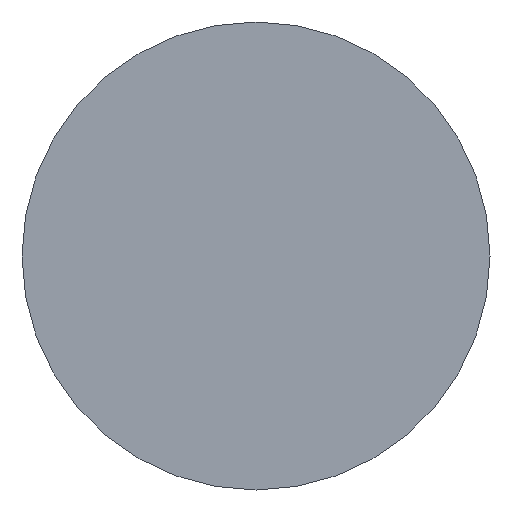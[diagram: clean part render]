
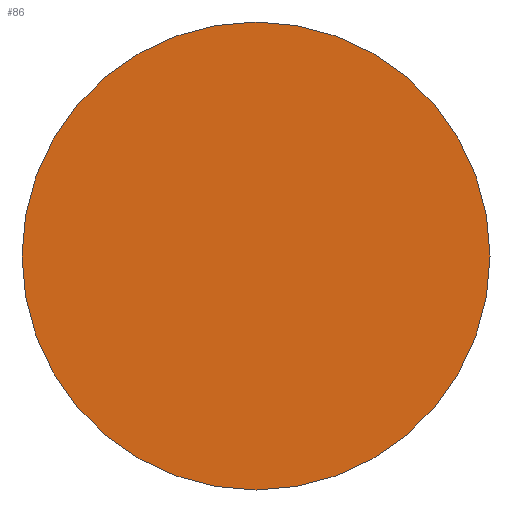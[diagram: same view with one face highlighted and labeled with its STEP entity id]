
A CAD part, left-side view. The second image highlights one B-rep face of the part: STEP entity #86.
In plain terms, the highlighted planar face has unit normal (-1, 0, 0).
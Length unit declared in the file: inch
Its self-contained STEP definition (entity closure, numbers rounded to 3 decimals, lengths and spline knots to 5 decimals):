
#16=PLANE('',#115);
#19=FACE_OUTER_BOUND('',#24,.T.);
#24=EDGE_LOOP('',(#67,#68));
#38=CIRCLE('',#116,0.22818);
#39=CIRCLE('',#117,0.22818);
#46=VERTEX_POINT('',#166);
#47=VERTEX_POINT('',#167);
#55=EDGE_CURVE('',#46,#47,#38,.T.);
#56=EDGE_CURVE('',#47,#46,#39,.T.);
#67=ORIENTED_EDGE('',*,*,#55,.T.);
#68=ORIENTED_EDGE('',*,*,#56,.T.);
#86=ADVANCED_FACE('',(#19),#16,.T.);
#115=AXIS2_PLACEMENT_3D('',#165,#136,#137);
#116=AXIS2_PLACEMENT_3D('',#168,#138,#139);
#117=AXIS2_PLACEMENT_3D('',#169,#140,#141);
#136=DIRECTION('center_axis',(-1.,0.,0.));
#137=DIRECTION('ref_axis',(0.,0.,1.));
#138=DIRECTION('center_axis',(-1.,0.,0.));
#139=DIRECTION('ref_axis',(0.,0.,1.));
#140=DIRECTION('center_axis',(-1.,0.,0.));
#141=DIRECTION('ref_axis',(0.,0.,1.));
#165=CARTESIAN_POINT('Origin',(0.,0.,0.18488));
#166=CARTESIAN_POINT('',(0.,0.,0.22818));
#167=CARTESIAN_POINT('',(0.,0.,-0.22818));
#168=CARTESIAN_POINT('Origin',(0.,0.,0.));
#169=CARTESIAN_POINT('Origin',(0.,0.,0.));
